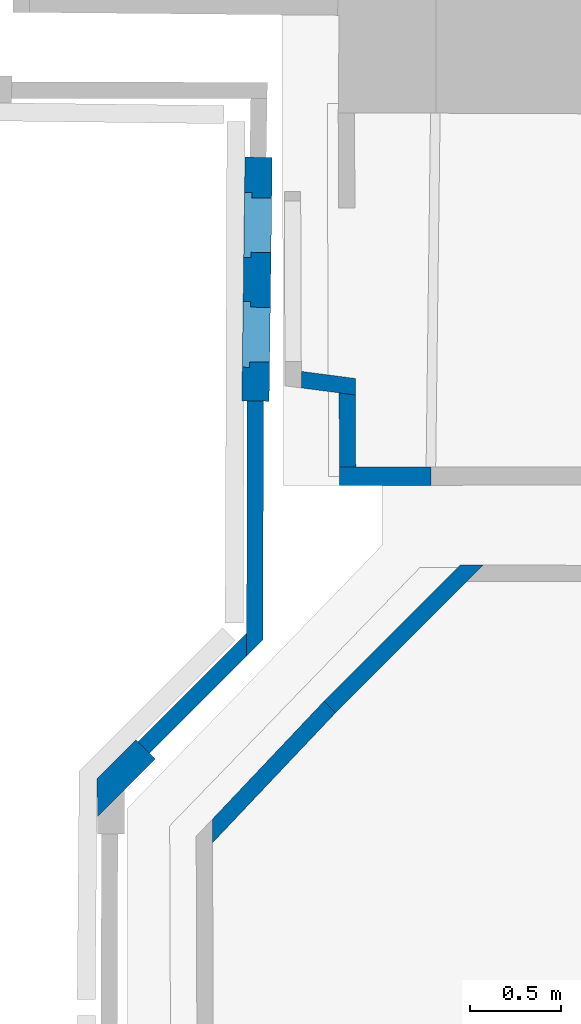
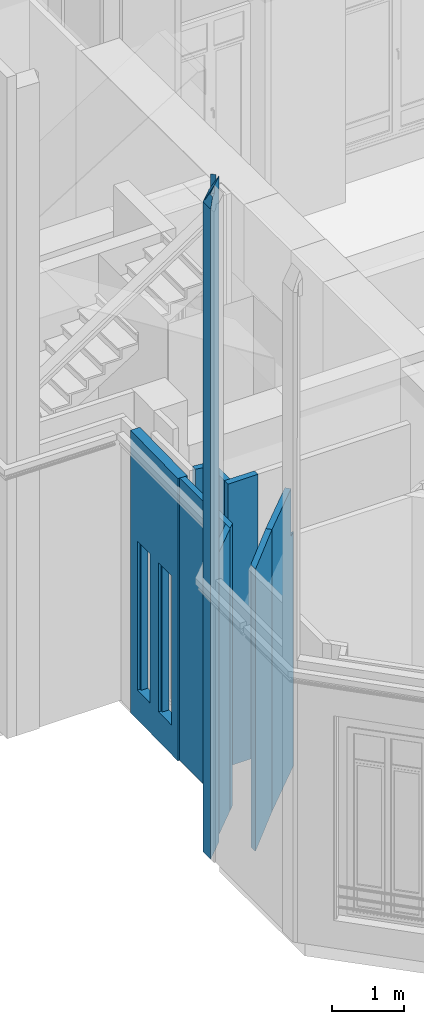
# One storey, part 6 of 97: 9 walls, 2 openings.
"""IFC2X3 building model written with IfcOpenShell, lengths in centimetres."""

from ifc_helpers import new_model, entity, si_unit, converted_unit, direction, frame, origin, origin_with_axes, origin_2d_with_axis, place, context, subcontext, project, spatial, polyline, rectangle, outline, extrude, clip, bounded_halfspace, faceted_brep, shape, material, layer, layer_set, layer_usage, type_object, element, save


model = new_model("IFC2X3")

# Units and contexts
model_context = context("Model", 3, precision=0.0001, world=origin(), true_north=direction((0.225632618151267, 0.974212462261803, 0.0)))
body_context = subcontext(model_context, "Body", "Model", "MODEL_VIEW")
footprint_context = subcontext(model_context, "FootPrint", "Model", "MODEL_VIEW")
profile_context = subcontext(model_context, "Profile", "Model", "MODEL_VIEW")
ifc_project = project(units=[si_unit("LENGTHUNIT", "METRE", prefix="CENTI"), si_unit("AREAUNIT", "SQUARE_METRE", prefix="CENTI"), si_unit("VOLUMEUNIT", "CUBIC_METRE", prefix="CENTI"), converted_unit("PLANEANGLEUNIT", "DEGREE", entity("IfcRatioMeasure", 0.0174532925), si_unit("PLANEANGLEUNIT", "RADIAN"), dimensions=[0, 0, 0, 0, 0, 0, 0])], contexts=[model_context])

# Site, building, storey
site_placement = place(None, origin_with_axes())
site = spatial("IfcSite", under=ifc_project, at=site_placement, Name="Default Site", CompositionType="ELEMENT")
building_placement = place(site_placement, origin_with_axes())
building = spatial("IfcBuilding", under=site, at=building_placement, Name="Default Building", CompositionType="ELEMENT")
storey_placement = place(building_placement, origin_with_axes())
storey = spatial("IfcBuildingStorey", under=building, at=storey_placement, Name="Rez-de-chaussée", CompositionType="ELEMENT", Elevation=0.0)

# Walls
ifc_material = material(Name="<aucun>")
ifc_layer_1 = layer(ifc_material, 9.0)
ifc_layer_set_1 = layer_set([ifc_layer_1], Name="default")
ifc_layer_usage_1 = layer_usage(ifc_layer_set_1, "AXIS2", "POSITIVE", -4.5)
wall_type_1 = type_object("IfcWallType", Name="default 90", PredefinedType="NOTDEFINED", material=ifc_layer_set_1)
wall_1_placement = place(storey_placement, frame((-1237.52342393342, -698.329101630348, 0.0128503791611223), z_axis=(0.0, 0.0, 1.0), x_axis=(0.706838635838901, 0.707374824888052, 0.0)))
element("IfcWallStandardCase", 1, at=wall_1_placement, inside=storey, type_object=wall_type_1, material=ifc_layer_usage_1, Name="Enveloppe 372935", context=body_context, shape_type="SweptSolid", body=[
    extrude(outline(polyline([(1.77635683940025e-13, 4.49999999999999), (-0.0387314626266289, -4.4999999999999), (75.6609841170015, -4.4999999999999), (84.7059995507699, 4.50000000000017), (1.77635683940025e-13, 4.49999999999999)])), origin_with_axes(), (0.0, 0.0, 1.0), 477.795358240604),
])
ifc_layer_usage_2 = layer_usage(ifc_layer_set_1, "AXIS2", "POSITIVE", -4.5)
wall_2_placement = place(storey_placement, frame((-1176.33364453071, -635.473884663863, 0.0128503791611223), z_axis=(0.0, 0.0, 1.0), x_axis=(0.00211546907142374, 0.9999977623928, 0.0)))
element("IfcWallStandardCase", 2, at=wall_2_placement, inside=storey, type_object=wall_type_1, material=ifc_layer_usage_2, Name="Enveloppe 372811", context=body_context, shape_type="SweptSolid", body=[
    extrude(outline(polyline([(-12.524863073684, 4.50000000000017), (-3.47984763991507, -4.50000000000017), (127.797530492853, -4.50000000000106), (127.897530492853, 4.49999999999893), (-12.524863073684, 4.50000000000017)])), origin_with_axes(), (0.0, 0.0, 1.0), 477.795358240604),
])
ifc_layer_usage_3 = layer_usage(ifc_layer_set_1, "AXIS2", "POSITIVE", -4.5)
wall_3_placement = place(storey_placement, frame((-1121.50262073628, -499.642583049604, 0.0128503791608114), z_axis=(0.0, 0.0, 1.0), x_axis=(-0.99154690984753, 0.129748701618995, 0.0)))
element("IfcWallStandardCase", 3, at=wall_3_placement, inside=storey, type_object=wall_type_1, material=ifc_layer_usage_3, Name="Enveloppe 665429", context=body_context, shape_type="SweptSolid", body=[
    extrude(outline(polyline([(30.0834654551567, -4.49999999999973), (28.8742546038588, 4.50000000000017), (-1.20348685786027, 4.50000000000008), (0.00521974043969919, -4.49999999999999), (30.0834654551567, -4.49999999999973)])), origin_with_axes(), (0.0, 0.0, 1.0), 477.795358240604),
])
ifc_layer_usage_4 = layer_usage(ifc_layer_set_1, "AXIS2", "POSITIVE", -4.5)
wall_4_placement = place(storey_placement, frame((-1125.25867280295, -543.987114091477, 0.0128503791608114), z_axis=(0.0, 0.0, 1.0), x_axis=(-0.00338637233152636, 0.999994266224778, 0.0)))
element("IfcWallStandardCase", 4, at=wall_4_placement, inside=storey, type_object=wall_type_1, material=ifc_layer_usage_4, Name="Enveloppe 665604", context=body_context, shape_type="SweptSolid", body=[
    extrude(outline(polyline([(40.9201147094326, 4.49999999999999), (0.026470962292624, 4.49999999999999), (-8.88178419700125e-14, -4.49999999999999), (39.7114081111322, -4.50000000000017), (40.9201147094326, 4.49999999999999)])), frame((0.0, 0.0, -2.71050543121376e-18), z_axis=(0.0, 0.0, 1.0), x_axis=(1.0, 0.0, 0.0)), (0.0, 0.0, 1.0), 477.795358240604),
])
ifc_layer_usage_5 = layer_usage(ifc_layer_set_1, "AXIS2", "POSITIVE", -4.5)
wall_5_placement = place(storey_placement, frame((-1202.88998519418, -747.737403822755, 0.0128503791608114), z_axis=(0.0, 0.0, 1.0), x_axis=(0.687243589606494, 0.726427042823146, 0.0)))
element("IfcWallStandardCase", 5, at=wall_5_placement, inside=storey, type_object=wall_type_1, material=ifc_layer_usage_5, Name="Enveloppe 7320", context=body_context, shape_type="SweptSolid", body=[
    extrude(outline(polyline([(9.4401340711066, 4.49999999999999), (-0.00400040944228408, -4.4999999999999), (98.6092900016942, -4.49999999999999), (98.8586519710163, 4.49654481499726), (9.4401340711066, 4.49999999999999)])), frame((0.0, 0.0, -2.71050543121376e-18), z_axis=(0.0, 0.0, 1.0), x_axis=(1.0, 0.0, 0.0)), (0.0, 0.0, 1.0), 477.795358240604),
])
ifc_layer_usage_6 = layer_usage(ifc_layer_set_1, "AXIS2", "POSITIVE", -4.5)
wall_6_placement = place(storey_placement, frame((-1135.03444158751, -676.015564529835, 0.0128503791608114), z_axis=(0.0, 0.0, 1.0), x_axis=(0.707106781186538, 0.707106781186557, 0.0)))
element("IfcWallStandardCase", 6, at=wall_6_placement, inside=storey, type_object=wall_type_1, material=ifc_layer_usage_6, Name="Enveloppe 7350", context=body_context, shape_type="Clipping", body=[
    clip(extrude(outline(polyline([(2.02504679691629e-11, 4.50000000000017), (1.98951966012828e-11, -4.49999999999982), (115.033200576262, -4.5000000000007), (106.086216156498, 4.49999999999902), (2.02504679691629e-11, 4.50000000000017)])), origin_with_axes(), (0.0, 0.0, 1.0), 477.795358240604), bounded_halfspace(frame((106.086216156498, 4.49999999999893, 397.095358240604), z_axis=(0.0, 0.0, -1.0), x_axis=(-1.0, -3.60822483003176e-15, 0.0)), True, frame((106.086216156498, 4.49999999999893, 397.095358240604), z_axis=(0.0, 0.0, 1.0), x_axis=(1.0, 0.0, 0.0)), polyline([(-3.59108389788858, -8.99999999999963), (8.94698441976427, -8.99999999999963), (1.77635683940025e-13, 0.0), (-3.59108389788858, 8.88178419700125e-14), (-3.59108389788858, -8.99999999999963)]))),
])
ifc_layer_2 = layer(ifc_material, 10.0)
ifc_layer_set_2 = layer_set([ifc_layer_2], Name="default")
ifc_layer_usage_7 = layer_usage(ifc_layer_set_2, "AXIS2", "POSITIVE", -5.0)
wall_type_2 = type_object("IfcWallType", Name="default 100", PredefinedType="NOTDEFINED", material=ifc_layer_set_2)
wall_7_placement = place(storey_placement, frame((-1120.74852688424, -548.971871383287, 0.0128503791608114), z_axis=(0.0, 0.0, 1.0), x_axis=(0.99999990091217, 0.000445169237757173, 0.0)))
element("IfcWallStandardCase", 7, at=wall_7_placement, inside=storey, type_object=wall_type_2, material=ifc_layer_usage_7, Name="Enveloppe 44912", context=body_context, shape_type="Clipping", body=[
    clip(extrude(outline(polyline([(-9.00798480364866, 4.99999999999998), (-8.97857262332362, -4.99999999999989), (41.2913017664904, -5.00000000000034), (41.2913017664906, 4.99999999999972), (-9.00798480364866, 4.99999999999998)])), frame((0.0, 0.0, -2.71050543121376e-18), z_axis=(0.0, 0.0, 1.0), x_axis=(1.0, 0.0, 0.0)), (0.0, 0.0, 1.0), 477.795358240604), bounded_halfspace(frame((38.5833335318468, 4.99999999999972, 234.987149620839), z_axis=(0.0, 0.0, -1.0), x_axis=(-3.55232336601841e-14, -1.0, 0.0)), True, frame((38.5833335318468, 4.99999999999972, 234.987149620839), z_axis=(0.0, 0.0, 1.0), x_axis=(1.0, 0.0, 0.0)), polyline([(-3.5527136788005e-13, -9.99999999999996), (2.70796823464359, -10.0000000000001), (2.70796823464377, 8.88178419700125e-14), (0.0, 8.88178419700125e-14), (-3.5527136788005e-13, -9.99999999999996)]))),
])

# Wall, openings
ifc_layer_3 = layer(ifc_material, 15.0)
ifc_layer_set_3 = layer_set([ifc_layer_3], Name="default")
ifc_layer_usage_8 = layer_usage(ifc_layer_set_3, "AXIS2", "POSITIVE", -7.5)
wall_type_3 = type_object("IfcWallType", Name="default 150", PredefinedType="NOTDEFINED", material=ifc_layer_set_3)
wall_8_placement = place(storey_placement, frame((-1175.9606156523, -507.626095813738, 0.0128503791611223), z_axis=(0.0, 0.0, 1.0), x_axis=(0.0128127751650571, 0.999917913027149, 0.0)))
wall_8 = element("IfcWallStandardCase", 8, at=wall_8_placement, inside=storey, type_object=wall_type_3, material=ifc_layer_usage_8, Name="Enveloppe 375015", context=body_context, shape_type="SweptSolid", body=[
    extrude(rectangle(XDim=134.241019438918, YDim=14.9999999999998, at=origin_2d_with_axis()), frame((67.120509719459, -3.5527136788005e-13, -2.71050543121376e-18), z_axis=(0.0, 0.0, 1.0), x_axis=(1.0, -4.76008121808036e-15, 0.0)), (0.0, 0.0, 1.0), 477.795358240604),
])
opening_1_placement = place(wall_8_placement, frame((78.9311209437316, -4.54747350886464e-13, 49.8284808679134), z_axis=(0.0, 0.0, 1.0), x_axis=(1.0, -4.7271214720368e-15, 0.0)))
cartesian_point_1 = entity("IfcCartesianPoint", [-8.88178419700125e-14, 1.77635683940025e-13, 252.494251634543])
cartesian_point_2 = entity("IfcCartesianPoint", [35.8788125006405, 7.50000000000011])
element("IfcOpeningElement", 9, at=opening_1_placement, cuts=wall_8, Name="Baie 379599", ObjectType="Opening", shapes=[
    shape(body_context, "Body", "Brep", [faceted_brep([(-1.07113344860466e-05, 27.5000012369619, 252.494240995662), (35.8788028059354, 27.5000012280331, 252.494240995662), (35.8788028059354, 27.5000012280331, 1.18853337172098e-06), (-1.07113344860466e-05, 27.5000012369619, 1.18853337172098e-06), (3.00000370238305, -27.5000449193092, 1.18853337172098e-06), (32.8788073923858, -27.5000449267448, 1.18853337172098e-06), (32.8788073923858, -27.5000449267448, 252.494240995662), (3.00000370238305, -27.5000449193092, 252.494240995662), (3.00000371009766, 3.4999669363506, 252.494240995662), (3.00000371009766, 3.4999669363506, 1.18853337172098e-06), (3.00001287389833, 3.4999669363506, 1.18853337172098e-06), (3.00001287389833, 3.4999669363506, 252.494240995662), (-1.58796360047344e-05, 3.49996693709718, 252.494240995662), (-1.58796360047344e-05, 3.49996693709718, 1.18853337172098e-06), (-1.58796360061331e-05, 3.4999613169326, 1.18853337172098e-06), (-1.58796360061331e-05, 3.4999613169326, 252.494240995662), (-1.5873663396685e-05, 27.5000012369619, 252.494240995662), (-1.5873663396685e-05, 27.5000012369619, 1.18853337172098e-06), (32.8788073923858, -27.5000193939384, 1.18853337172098e-06), (35.8788028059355, 27.5000373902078, 1.18853337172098e-06), (35.8788214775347, 3.49999777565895, 1.18853337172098e-06), (32.8788165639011, 3.49999246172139, 1.18853337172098e-06), (32.8788073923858, -27.5000193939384, 252.494240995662), (32.8788074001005, 3.49999246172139, 1.18853337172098e-06), (32.8788074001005, 3.49999246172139, 252.494240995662), (32.8788165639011, 3.49999246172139, 252.494240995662), (35.8788214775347, 3.49999246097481, 1.18853337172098e-06), (35.8788214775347, 3.49999246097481, 252.494240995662), (35.8788214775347, 3.49999777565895, 252.494240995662), (35.8788214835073, 27.5000373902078, 1.18853337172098e-06), (35.8788214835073, 27.5000373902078, 252.494240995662), (35.8788028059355, 27.5000373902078, 252.494240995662)], [[[0, 1, 2, 3]], [[4, 5, 6, 7]], [[4, 7, 8, 9]], [[10, 11, 12, 13]], [[14, 15, 16, 17]], [[18, 4, 10, 14, 3, 19, 20, 21]], [[22, 18, 23, 24]], [[25, 21, 26, 27]], [[28, 20, 29, 30]], [[25, 28, 31, 0, 15, 11, 7, 22]]])]),
    shape(profile_context, "Profile", "GeometricCurveSet", [entity("IfcGeometricCurveSet", [entity("IfcPolyline", [cartesian_point_1, entity("IfcCartesianPoint", [-8.88178419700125e-14, 1.77635683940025e-13, 5.55111512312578e-15]), entity("IfcCartesianPoint", [35.8788125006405, 1.77635683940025e-13, 5.55111512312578e-15]), entity("IfcCartesianPoint", [35.8788125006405, 1.77635683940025e-13, 252.494251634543]), cartesian_point_1])])]),
    shape(footprint_context, "FootPrint", "GeometricCurveSet", [entity("IfcGeometricCurveSet", [entity("IfcPolyline", [cartesian_point_2, entity("IfcCartesianPoint", [-1.77635683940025e-13, 7.50000000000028]), entity("IfcCartesianPoint", [0.0, -7.49999999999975]), entity("IfcCartesianPoint", [35.8788125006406, -7.49999999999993]), cartesian_point_2])])]),
])
opening_2_placement = place(wall_8_placement, frame((18.5755222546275, 0.0, 49.7871496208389), z_axis=(0.0, 0.0, 1.0), x_axis=(1.0, -4.7271214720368e-15, 0.0)))
cartesian_point_3 = entity("IfcCartesianPoint", [0.0, 0.0, 252.494251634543])
cartesian_point_4 = entity("IfcCartesianPoint", [36.1071804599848, 7.49999999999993])
element("IfcOpeningElement", 10, at=opening_2_placement, cuts=wall_8, Name="Baie 379600", ObjectType="Opening", shapes=[
    shape(body_context, "Body", "Brep", [faceted_brep([(-2.30900439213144e-05, 27.5000128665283, 252.494254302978), (36.1071907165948, 27.5000128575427, 252.494254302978), (36.1071907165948, 27.5000128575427, -4.05311617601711e-07), (-2.30900439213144e-05, 27.5000128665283, -4.05311617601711e-07), (2.99999132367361, -27.5000332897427, -4.05311617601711e-07), (33.1071953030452, -27.5000332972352, -4.05311617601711e-07), (33.1071953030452, -27.5000332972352, 252.494254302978), (2.99999132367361, -27.5000332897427, 252.494254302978), (2.99999133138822, 3.49997856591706, 252.494254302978), (2.99999133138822, 3.49997856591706, -4.05311617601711e-07), (3.0000004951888, 3.49997856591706, -4.05311617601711e-07), (3.0000004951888, 3.49997856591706, 252.494254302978), (1.94214560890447e-05, 3.49997856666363, 252.494254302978), (1.94214560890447e-05, 3.49997856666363, -4.05311617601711e-07), (1.94214560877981e-05, 3.49997355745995, -4.05311617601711e-07), (1.94214560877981e-05, 3.49997355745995, 252.494254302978), (1.94274286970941e-05, 27.5000128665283, 252.494254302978), (1.94274286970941e-05, 27.5000128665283, -4.05311617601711e-07), (33.1071953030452, -27.5000377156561, -4.05311617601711e-07), (36.1071907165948, 27.5000190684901, -4.05311617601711e-07), (36.1071855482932, 3.49997914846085, -4.05311617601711e-07), (33.1072044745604, 3.49997414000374, -4.05311617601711e-07), (33.1071953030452, -27.5000377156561, 252.494254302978), (33.1071953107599, 3.49997414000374, -4.05311617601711e-07), (33.1071953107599, 3.49997414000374, 252.494254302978), (33.1072044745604, 3.49997414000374, 252.494254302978), (36.1071855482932, 3.49997413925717, -4.05311617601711e-07), (36.1071855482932, 3.49997413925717, 252.494254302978), (36.1071855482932, 3.49997914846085, 252.494254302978), (36.1071855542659, 27.5000190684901, -4.05311617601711e-07), (36.1071855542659, 27.5000190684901, 252.494254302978), (36.1071907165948, 27.5000190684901, 252.494254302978)], [[[0, 1, 2, 3]], [[4, 5, 6, 7]], [[4, 7, 8, 9]], [[10, 11, 12, 13]], [[14, 15, 16, 17]], [[18, 4, 10, 14, 3, 19, 20, 21]], [[22, 18, 23, 24]], [[25, 21, 26, 27]], [[28, 20, 29, 30]], [[25, 28, 31, 0, 15, 11, 7, 22]]])]),
    shape(profile_context, "Profile", "GeometricCurveSet", [entity("IfcGeometricCurveSet", [entity("IfcPolyline", [cartesian_point_3, entity("IfcCartesianPoint", [0.0, 0.0, 0.0]), entity("IfcCartesianPoint", [36.1071804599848, 0.0, 0.0]), entity("IfcCartesianPoint", [36.1071804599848, 0.0, 252.494251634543]), cartesian_point_3])])]),
    shape(footprint_context, "FootPrint", "GeometricCurveSet", [entity("IfcGeometricCurveSet", [entity("IfcPolyline", [cartesian_point_4, entity("IfcCartesianPoint", [0.0, 7.50000000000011]), entity("IfcCartesianPoint", [0.0, -7.50000000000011]), entity("IfcCartesianPoint", [36.1071804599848, -7.50000000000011]), cartesian_point_4])])]),
])

# Wall
ifc_layer_usage_9 = layer_usage(ifc_layer_set_3, "AXIS2", "POSITIVE", -7.5)
wall_9_placement = place(storey_placement, frame((-1257.81755180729, -720.684071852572, 0.0128503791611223), z_axis=(0.0, 0.0, 1.0), x_axis=(0.709876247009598, 0.704326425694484, 0.0)))
solid_1 = clip(clip(clip(clip(clip(clip(clip(clip(extrude(outline(polyline([(0.00122296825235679, 7.49878659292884), (-14.8436915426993, -7.49999999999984), (30.1321500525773, -7.49999999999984), (30.1321500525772, -3.88429511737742), (30.2321500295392, -3.88422723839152), (30.2260409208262, 5.11577068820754), (30.132150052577, 5.11570695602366), (30.132150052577, 7.5000000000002), (0.00122296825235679, 7.49878659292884)])), frame((0.0, 0.0, -2.71050543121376e-18), z_axis=(0.0, 0.0, 1.0), x_axis=(1.0, 0.0, 0.0)), (0.0, 0.0, 1.0), 1127.78400513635), bounded_halfspace(frame((30.2314983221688, -2.9241256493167, 477.795358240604), z_axis=(0.0, 0.0, 1.0), x_axis=(0.000678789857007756, -0.999999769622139, 0.0)), True, frame((30.2314983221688, -2.9241256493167, 477.795358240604), z_axis=(0.0, 0.0, 1.0), x_axis=(1.0, 0.0, 0.0)), polyline([(-0.0181730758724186, -0.960114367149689), (-0.0161649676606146, -6.95658714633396e-05), (0.0, -8.88178419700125e-14), (0.00065170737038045, -0.960101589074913), (-0.0181730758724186, -0.960114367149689)]))), bounded_halfspace(frame((30.1321500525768, 5.10550672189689, 477.795358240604), z_axis=(0.0, 0.0, 1.0), x_axis=(0.999982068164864, -0.00598860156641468, 0.0)), True, frame((30.1321500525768, 5.10550672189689, 477.795358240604), z_axis=(0.0, 0.0, 1.0), x_axis=(1.0, 0.0, 0.0)), polyline([(3.5527136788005e-13, -8.03005991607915), (-1.77635683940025e-13, -1.77635683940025e-13), (0.0938982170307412, -0.000562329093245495), (0.0831833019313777, -8.02970193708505), (3.5527136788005e-13, -8.03005991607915)]))), bounded_halfspace(frame((30.2321276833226, 5.10490798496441, 477.795358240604), z_axis=(0.0, 0.0, 1.0), x_axis=(-0.00209167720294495, -0.999997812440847, 0.0)), True, frame((30.2321276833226, 5.10490798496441, 477.795358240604), z_axis=(0.0, 0.0, 1.0), x_axis=(1.0, 0.0, 0.0)), polyline([(-0.00458988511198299, -2.19435153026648), (0.0, 0.0), (-0.00458988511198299, -2.19435153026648)]))), bounded_halfspace(frame((30.2275377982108, 2.91055645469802, 477.795358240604), z_axis=(0.0, 0.0, 1.0), x_axis=(0.000678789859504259, -0.999999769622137, 0.0)), True, frame((30.2275377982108, 2.91055645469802, 477.795358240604), z_axis=(0.0, 0.0, 1.0), x_axis=(1.0, 0.0, 0.0)), polyline([(-0.0122044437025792, -5.83475166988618), (-1.77635683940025e-13, -8.88178419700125e-14), (0.00396052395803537, -5.83468210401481), (-0.0122044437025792, -5.83475166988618)]))), bounded_halfspace(frame((30.2260482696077, 5.10494439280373, 1104.79319083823), z_axis=(-0.00268868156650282, -0.875672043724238, -0.482898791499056), x_axis=(-0.974021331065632, 0.111641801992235, -0.197024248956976)), True, frame((30.2260482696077, 5.10494439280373, 1104.79319083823), z_axis=(0.0, 0.0, 1.0), x_axis=(1.0, 0.0, 0.0)), polyline([(-0.0938982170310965, 0.000562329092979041), (-1.77635683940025e-13, -8.88178419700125e-14), (-0.0938982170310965, 0.0107625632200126), (-0.0938982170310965, 0.000562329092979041)]))), bounded_halfspace(frame((-11.4904424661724, -7.50000000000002, 1104.84918754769), z_axis=(0.619135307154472, -0.618738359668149, -0.483564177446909), x_axis=(-0.343720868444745, 0.340139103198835, -0.875306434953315)), True, frame((-11.4904424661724, -7.50000000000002, 1104.84918754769), z_axis=(0.0, 0.0, 1.0), x_axis=(1.0, 0.0, 0.0)), polyline([(-3.35324907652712, 1.77635683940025e-13), (0.0, -8.88178419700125e-14), (8.82276835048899, 8.83392484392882), (7.08770872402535, 10.5509041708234), (-3.35324907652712, 1.77635683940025e-13)]))), bounded_halfspace(frame((6.40967254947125, -7.49999999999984, 1127.78316775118), z_axis=(-0.00268868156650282, -0.875672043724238, -0.482898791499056), x_axis=(-1.53210777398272e-14, 0.482900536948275, -0.875675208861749)), True, frame((6.40967254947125, -7.49999999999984, 1127.78316775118), z_axis=(0.0, 0.0, 1.0), x_axis=(1.0, 0.0, 0.0)), polyline([(-5.26265132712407, 12.6534439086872), (-1.77635683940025e-13, -8.88178419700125e-14), (23.7224775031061, 0.0), (23.7224775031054, 12.6055067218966), (-5.13790979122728, 12.7783431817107), (-5.26265132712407, 12.6534439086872)]))), bounded_halfspace(frame((30.2260482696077, 5.10494439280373, 1104.79319083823), z_axis=(-0.00268868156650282, -0.875672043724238, -0.482898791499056), x_axis=(-0.999976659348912, -0.000678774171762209, 0.00679853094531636)), True, frame((30.2260482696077, 5.10494439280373, 1104.79319083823), z_axis=(0.0, 0.0, 1.0), x_axis=(1.0, 0.0, 0.0)), polyline([(-0.0938982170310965, 0.0107625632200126), (-1.77635683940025e-13, -8.88178419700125e-14), (-7.34878149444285e-06, 0.0108262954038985), (-0.0938982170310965, 0.0107625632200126)])))
solid_2 = clip(clip(clip(clip(clip(clip(clip(clip(solid_1, bounded_halfspace(frame((-2.66767411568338, 1.33392484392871, 1104.84215482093), z_axis=(0.619135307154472, -0.618738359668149, -0.483564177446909), x_axis=(0.343720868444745, -0.340139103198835, 0.875306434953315)), True, frame((-2.66767411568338, 1.33392484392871, 1104.84215482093), z_axis=(0.0, 0.0, 1.0), x_axis=(1.0, 0.0, 0.0)), polyline([(-1.73505962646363, 1.71697932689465), (0.0, 8.88178419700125e-14), (2.85263049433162, 2.85623767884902), (2.34112152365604, 3.95399018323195), (0.489612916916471, 3.96507832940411), (-1.73505962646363, 1.71697932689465)]))), bounded_halfspace(frame((0.948452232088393, -2.24451942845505, 1114.05084405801), z_axis=(0.0, 0.0, -1.0), x_axis=(-0.706879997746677, -0.707333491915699, 0.0)), True, frame((0.948452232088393, -2.24451942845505, 1114.05084405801), z_axis=(0.0, 0.0, 1.0), x_axis=(1.0, 0.0, 0.0)), polyline([(-5.25211111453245, -5.2554805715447), (5.31082233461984, -5.2554805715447), (-1.77635683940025e-13, -8.88178419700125e-14), (-5.25211111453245, -5.2554805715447)]))), bounded_halfspace(frame((30.1321500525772, -3.88429511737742, 1121.09449109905), z_axis=(-0.00268868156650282, -0.875672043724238, -0.482898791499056), x_axis=(0.00101006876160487, 0.482897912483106, -0.875676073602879)), True, frame((30.1321500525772, -3.88429511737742, 1121.09449109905), z_axis=(0.0, 0.0, 1.0), x_axis=(1.0, 0.0, 0.0)), polyline([(-1.77635683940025e-13, 0.0), (0.0811751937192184, 5.51009110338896e-05), (0.0831833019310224, 0.96009990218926), (0.0, 0.959741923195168), (-1.77635683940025e-13, 0.0)]))), bounded_halfspace(frame((30.1321500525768, 5.10550672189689, 1104.79269393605), z_axis=(-0.00268868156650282, -0.875672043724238, -0.482898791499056), x_axis=(-0.999984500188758, -6.7168492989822e-15, 0.00556770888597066)), True, frame((30.1321500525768, 5.10550672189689, 1104.79269393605), z_axis=(0.0, 0.0, 1.0), x_axis=(1.0, 0.0, 0.0)), polyline([(-29.9610770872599, 2.39449327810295), (-29.037516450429, 0.173897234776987), (-1.77635683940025e-13, -1.77635683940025e-13), (0.0, 2.3944932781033), (-29.9610770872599, 2.39449327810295)]))), bounded_halfspace(frame((-0.32655259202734, 5.28791502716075, 1102.78035112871), z_axis=(0.619135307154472, -0.618738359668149, -0.483564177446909), x_axis=(-0.214090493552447, 0.459460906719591, -0.862009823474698)), True, frame((-0.32655259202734, 5.28791502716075, 1102.78035112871), z_axis=(0.0, 0.0, 1.0), x_axis=(1.0, 0.0, 0.0)), polyline([(-1.85150860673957, 0.011088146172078), (-1.77635683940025e-13, 8.88178419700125e-14), (-0.596233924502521, 1.27958124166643), (-1.85150860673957, 0.011088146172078)]))), bounded_halfspace(frame((1.09463360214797, 5.27940395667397, 1104.61086860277), z_axis=(0.619135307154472, -0.618738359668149, -0.483564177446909), x_axis=(-0.615537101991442, 3.90354415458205e-13, -0.788107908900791)), True, frame((1.09463360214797, 5.27940395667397, 1104.61086860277), z_axis=(0.0, 0.0, 1.0), x_axis=(1.0, 0.0, 0.0)), polyline([(-2.01742011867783, 1.28809231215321), (-1.42118619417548, 0.00851107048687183), (-1.77635683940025e-13, -8.88178419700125e-14), (-0.923560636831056, 2.22059604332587), (-1.09463360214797, 2.22059604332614), (-2.01742011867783, 1.28809231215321)]))), bounded_halfspace(frame((5.09547206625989, -6.34832497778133, 1124.61148636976), z_axis=(0.619135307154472, -0.618738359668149, -0.483564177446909), x_axis=(-0.214090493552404, 0.459460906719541, -0.862009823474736)), True, frame((5.09547206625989, -6.34832497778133, 1124.61148636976), z_axis=(0.0, 0.0, 1.0), x_axis=(1.0, 0.0, 0.0)), polyline([(-7.76314618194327, 7.68224982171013), (0.0, 0.0), (-4.91051568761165, 10.5384875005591), (-7.76314618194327, 7.68224982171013)]))), bounded_halfspace(frame((6.25927456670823, -7.49999999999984, 1127.78400513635), z_axis=(-0.00268868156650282, -0.875672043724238, -0.482898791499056), x_axis=(-0.197094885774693, 0.473892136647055, -0.858242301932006)), True, frame((6.25927456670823, -7.49999999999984, 1127.78400513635), z_axis=(0.0, 0.0, 1.0), x_axis=(1.0, 0.0, 0.0)), polyline([(-6.07431818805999, 11.6901625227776), (-1.16380250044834, 1.15167502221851), (0.0, 8.88178419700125e-14), (0.15039798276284, -8.88178419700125e-14), (-5.11225334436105, 12.6534439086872), (-6.07431818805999, 11.6901625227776)])))
solid_3 = clip(clip(clip(clip(clip(clip(clip(clip(solid_2, bounded_halfspace(frame((0.184956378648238, 4.19016252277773, 1104.83988095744), z_axis=(0.619135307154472, -0.618738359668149, -0.483564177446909), x_axis=(-0.613250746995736, 0.00367258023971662, -0.789879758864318)), True, frame((0.184956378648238, 4.19016252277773, 1104.83988095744), z_axis=(0.0, 0.0, 1.0), x_axis=(1.0, 0.0, 0.0)), polyline([(-0.511508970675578, 1.09775250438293), (0.0, 0.0), (0.962064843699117, 0.963281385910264), (0.90967722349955, 1.08924143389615), (-0.511508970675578, 1.09775250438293)]))), bounded_halfspace(frame((1.14702122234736, 5.15344390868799, 1104.86714955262), z_axis=(-0.00268868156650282, -0.875672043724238, -0.482898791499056), x_axis=(0.197094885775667, -0.473892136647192, 0.858242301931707)), True, frame((1.14702122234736, 5.15344390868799, 1104.86714955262), z_axis=(0.0, 0.0, 1.0), x_axis=(1.0, 0.0, 0.0)), polyline([(-0.0523876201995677, 0.125960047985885), (0.0, 0.0), (0.124741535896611, 0.124899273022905), (-0.0523876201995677, 0.125960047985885)]))), bounded_halfspace(frame((-4.30365888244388, -7.49999999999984, 1114.05084405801), z_axis=(0.619135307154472, -0.618738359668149, -0.483564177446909), x_axis=(0.615537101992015, 1.24344978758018e-14, 0.788107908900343)), True, frame((-4.30365888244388, -7.49999999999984, 1114.05084405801), z_axis=(0.0, 0.0, 1.0), x_axis=(1.0, 0.0, 0.0)), polyline([(-7.18678358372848, -2.66453525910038e-13), (-1.77635683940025e-13, 8.88178419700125e-14), (5.2521111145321, 5.2554805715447), (1.6359847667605, 8.83392484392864), (-7.18678358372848, -2.66453525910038e-13)]))), bounded_halfspace(frame((30.2153333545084, -2.92419521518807, 853.897523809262), z_axis=(0.0, 0.0, -1.0), x_axis=(-0.00209167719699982, -0.999997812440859, 0.0)), True, frame((30.2153333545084, -2.92419521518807, 853.897523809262), z_axis=(0.0, 0.0, 1.0), x_axis=(1.0, 0.0, 0.0)), polyline([(-0.00200810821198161, -0.960044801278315), (0.0168166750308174, -0.960032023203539), (0.016164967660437, 6.95658712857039e-05), (-1.77635683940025e-13, -8.88178419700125e-14), (-0.00200810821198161, -0.960044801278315)]))), bounded_halfspace(frame((30.1321500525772, -2.92455319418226, 1119.35412813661), z_axis=(-0.00268868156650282, -0.875672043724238, -0.482898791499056), x_axis=(0.999901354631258, 0.00430307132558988, -0.0133702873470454)), True, frame((30.1321500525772, -2.92455319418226, 1119.35412813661), z_axis=(0.0, 0.0, 1.0), x_axis=(1.0, 0.0, 0.0)), polyline([(0.0, 0.0), (0.0831833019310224, 0.000357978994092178), (0.0938982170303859, 8.0294975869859), (-5.32907051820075e-13, 8.03005991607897), (0.0, 0.0)]))), bounded_halfspace(frame((30.2153333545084, -2.92419521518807, 853.897523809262), z_axis=(0.0, 0.0, -1.0), x_axis=(0.999990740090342, 0.00430345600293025, 0.0)), True, frame((30.2153333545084, -2.92419521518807, 853.897523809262), z_axis=(0.0, 0.0, 1.0), x_axis=(1.0, 0.0, 0.0)), polyline([(-1.77635683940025e-13, -8.88178419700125e-14), (0.016164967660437, 6.95658712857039e-05), (0.012204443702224, 5.83475166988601), (-1.77635683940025e-13, -8.88178419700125e-14)]))), bounded_halfspace(frame((30.2275377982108, 2.91055645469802, 1108.7724100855), z_axis=(-0.00268868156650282, -0.875672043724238, -0.482898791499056), x_axis=(0.000327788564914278, -0.482901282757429, 0.875674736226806)), True, frame((30.2275377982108, 2.91055645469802, 1108.7724100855), z_axis=(0.0, 0.0, 1.0), x_axis=(1.0, 0.0, 0.0)), polyline([(-1.77635683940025e-13, -8.88178419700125e-14), (-0.00148952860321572, 2.19438793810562), (-1.77635683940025e-13, -8.88178419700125e-14)]))), bounded_halfspace(frame((30.2153333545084, -2.92419521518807, 1119.35301584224), z_axis=(-0.00268868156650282, -0.875672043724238, -0.482898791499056), x_axis=(0.999901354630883, 0.00430307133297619, -0.0133702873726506)), True, frame((30.2153333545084, -2.92419521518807, 1119.35301584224), z_axis=(0.0, 0.0, 1.0), x_axis=(1.0, 0.0, 0.0)), polyline([(-1.77635683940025e-13, -8.88178419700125e-14), (0.016164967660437, 6.95658712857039e-05), (0.012204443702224, 5.83475166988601), (-1.77635683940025e-13, -8.88178419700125e-14)])))
element("IfcWallStandardCase", 11, at=wall_9_placement, inside=storey, type_object=wall_type_3, material=ifc_layer_usage_9, Name="Enveloppe 375018", context=body_context, shape_type="Clipping", body=[
    clip(solid_3, bounded_halfspace(frame((30.2260482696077, 5.10494439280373, 1104.79319083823), z_axis=(-0.00268868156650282, -0.875672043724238, -0.482898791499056), x_axis=(-0.261514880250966, 0.466710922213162, -0.844861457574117)), True, frame((30.2260482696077, 5.10494439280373, 1104.79319083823), z_axis=(0.0, 0.0, 1.0), x_axis=(1.0, 0.0, 0.0)), polyline([(0.00565209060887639, 0.000726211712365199), (-7.34878149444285e-06, 0.0108262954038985), (0.00565209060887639, 0.000726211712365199)]))),
])

save(model, "model.ifc")
